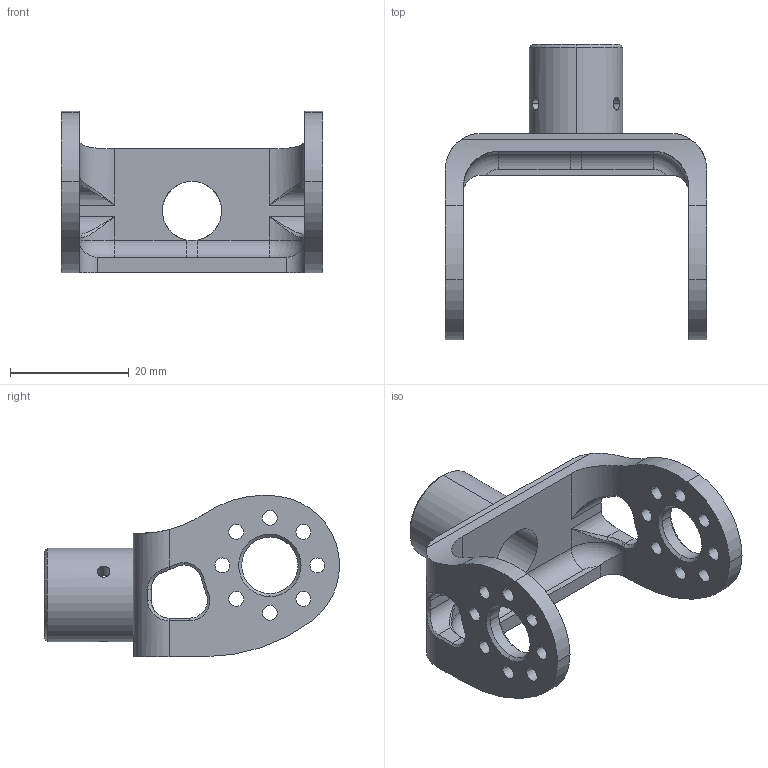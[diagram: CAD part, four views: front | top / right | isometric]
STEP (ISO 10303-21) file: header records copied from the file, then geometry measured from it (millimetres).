
FILE_DESCRIPTION (( 'STEP AP203' ), '1' );
FILE_NAME ('BR01_ARM_CONNECTOR.STEP');
FILE_SCHEMA (( 'CONFIG_CONTROL_DESIGN' ));
Length unit declared in the file: millimetre
Products named in the file (1): BR01_ARM_CONNECTOR
Bounding box: 44 x 49.75 x 27.21 mm (x, y, z)
Volume: 7684 mm3; surface area: 6531.9 mm2
Topology: 1 solids, 1 shells, 147 faces, 406 edges, 251 vertices
Faces by surface type: cylinder 79, cone 28, plane 23, bspline 15, torus 2
Entity records: 7113 total; most frequent: CARTESIAN_POINT 3274, ORIENTED_EDGE 804, DIRECTION 768, EDGE_CURVE 402, AXIS2_PLACEMENT_3D 306, VERTEX_POINT 251, EDGE_LOOP 189, CIRCLE 173
